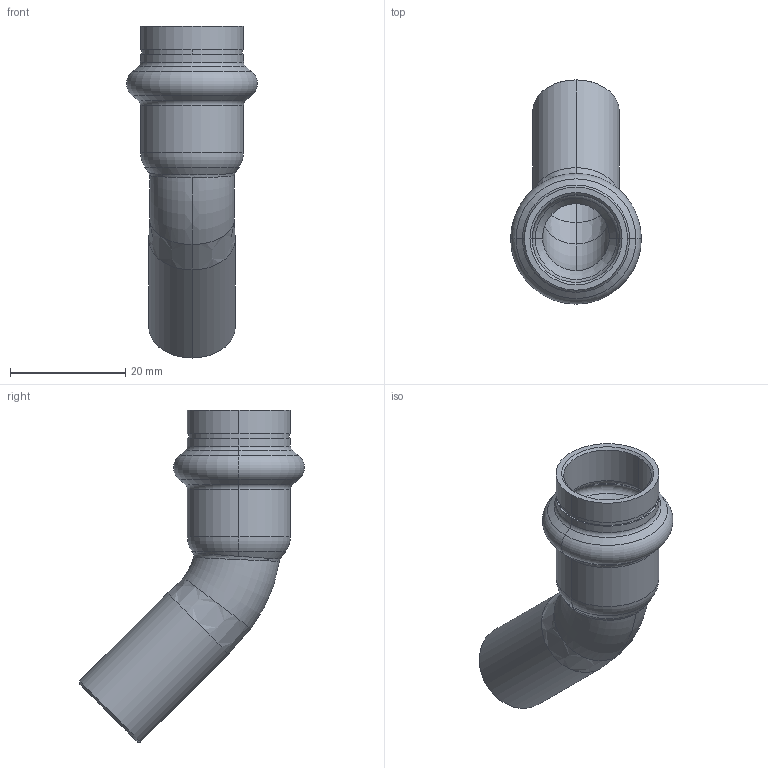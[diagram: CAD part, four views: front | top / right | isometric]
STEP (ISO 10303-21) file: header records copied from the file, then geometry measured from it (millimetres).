
FILE_DESCRIPTION (( 'STEP AP203' ), '1' );
FILE_NAME ('SP5040 Ø15.STEP', '2017-04-24T08:08:53', ( '' ), ( '' ), 'SwSTEP 2.0', 'SolidWorks 2016', '' );
FILE_SCHEMA (( 'CONFIG_CONTROL_DESIGN' ));
Length unit declared in the file: millimetre
Products named in the file (1): SP5040 ﾘ15
Bounding box: 22.7 x 39 x 57.65 mm (x, y, z)
Volume: 4338.2 mm3; surface area: 6136.5 mm2
Topology: 1 solids, 1 shells, 62 faces, 130 edges, 72 vertices
Faces by surface type: torus 20, cone 16, cylinder 16, bspline 6, plane 4
Entity records: 2442 total; most frequent: CARTESIAN_POINT 1038, DIRECTION 310, ORIENTED_EDGE 260, AXIS2_PLACEMENT_3D 139, EDGE_CURVE 130, CIRCLE 82, VERTEX_POINT 72, EDGE_LOOP 66
